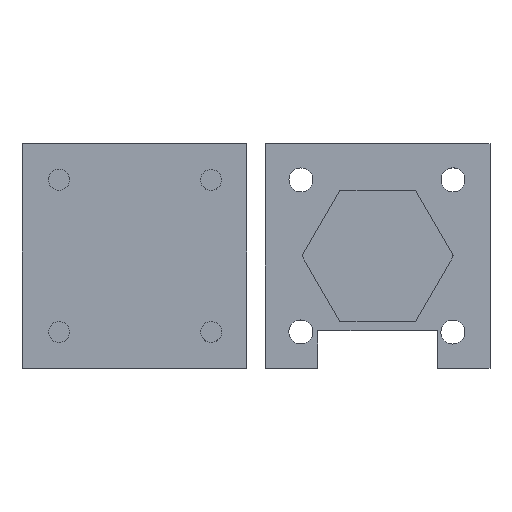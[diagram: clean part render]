
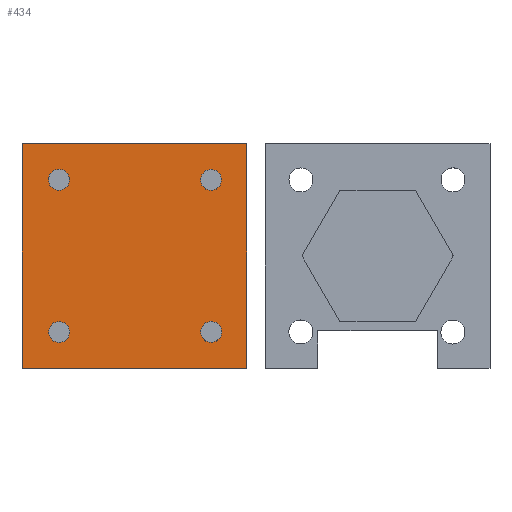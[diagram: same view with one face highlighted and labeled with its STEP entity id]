
A CAD part, top view. The second image highlights one B-rep face of the part: STEP entity #434.
In plain terms, the highlighted planar face has unit normal (0, 0, 1).
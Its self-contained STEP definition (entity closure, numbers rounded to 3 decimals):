
#32=CARTESIAN_POINT('',(-6.439,-10.146,0.9));
#33=VERTEX_POINT('',#32);
#59=CARTESIAN_POINT('',(-3.639,-10.146,0.9));
#60=VERTEX_POINT('',#59);
#61=CARTESIAN_POINT('',(-5.039,-10.146,0.9));
#62=DIRECTION('',(0.,0.,1.));
#63=DIRECTION('',(1.,0.,-0.));
#64=AXIS2_PLACEMENT_3D('',#61,#62,#63);
#65=CIRCLE('',#64,1.4);
#66=EDGE_CURVE('',#33,#60,#65,.T.);
#68=CARTESIAN_POINT('',(-5.039,-10.146,0.9));
#69=DIRECTION('',(0.,0.,1.));
#70=DIRECTION('',(1.,0.,-0.));
#71=AXIS2_PLACEMENT_3D('',#68,#69,#70);
#72=CIRCLE('',#71,1.4);
#73=EDGE_CURVE('',#60,#33,#72,.T.);
#93=CARTESIAN_POINT('',(-26.74,-10.161,0.9));
#94=VERTEX_POINT('',#93);
#120=CARTESIAN_POINT('',(-23.94,-10.161,0.9));
#121=VERTEX_POINT('',#120);
#122=CARTESIAN_POINT('',(-25.34,-10.161,0.9));
#123=DIRECTION('',(0.,0.,1.));
#124=DIRECTION('',(1.,0.,-0.));
#125=AXIS2_PLACEMENT_3D('',#122,#123,#124);
#126=CIRCLE('',#125,1.4);
#127=EDGE_CURVE('',#94,#121,#126,.T.);
#129=CARTESIAN_POINT('',(-25.34,-10.161,0.9));
#130=DIRECTION('',(0.,0.,1.));
#131=DIRECTION('',(1.,0.,-0.));
#132=AXIS2_PLACEMENT_3D('',#129,#130,#131);
#133=CIRCLE('',#132,1.4);
#134=EDGE_CURVE('',#121,#94,#133,.T.);
#154=CARTESIAN_POINT('',(-6.452,10.16,0.9));
#155=VERTEX_POINT('',#154);
#181=CARTESIAN_POINT('',(-3.652,10.16,0.9));
#182=VERTEX_POINT('',#181);
#183=CARTESIAN_POINT('',(-5.052,10.16,0.9));
#184=DIRECTION('',(0.,0.,1.));
#185=DIRECTION('',(1.,0.,-0.));
#186=AXIS2_PLACEMENT_3D('',#183,#184,#185);
#187=CIRCLE('',#186,1.4);
#188=EDGE_CURVE('',#155,#182,#187,.T.);
#190=CARTESIAN_POINT('',(-5.052,10.16,0.9));
#191=DIRECTION('',(0.,0.,1.));
#192=DIRECTION('',(1.,0.,-0.));
#193=AXIS2_PLACEMENT_3D('',#190,#191,#192);
#194=CIRCLE('',#193,1.4);
#195=EDGE_CURVE('',#182,#155,#194,.T.);
#215=CARTESIAN_POINT('',(-26.76,10.166,0.9));
#216=VERTEX_POINT('',#215);
#242=CARTESIAN_POINT('',(-23.96,10.166,0.9));
#243=VERTEX_POINT('',#242);
#244=CARTESIAN_POINT('',(-25.36,10.166,0.9));
#245=DIRECTION('',(0.,0.,1.));
#246=DIRECTION('',(1.,0.,-0.));
#247=AXIS2_PLACEMENT_3D('',#244,#245,#246);
#248=CIRCLE('',#247,1.4);
#249=EDGE_CURVE('',#216,#243,#248,.T.);
#251=CARTESIAN_POINT('',(-25.36,10.166,0.9));
#252=DIRECTION('',(0.,0.,1.));
#253=DIRECTION('',(1.,0.,-0.));
#254=AXIS2_PLACEMENT_3D('',#251,#252,#253);
#255=CIRCLE('',#254,1.4);
#256=EDGE_CURVE('',#243,#216,#255,.T.);
#276=CARTESIAN_POINT('',(-30.3,15.,0.9));
#277=VERTEX_POINT('',#276);
#278=CARTESIAN_POINT('',(-30.3,-15.,0.9));
#279=VERTEX_POINT('',#278);
#280=CARTESIAN_POINT('',(-30.3,15.,0.9));
#281=DIRECTION('',(-0.,-1.,0.));
#282=VECTOR('',#281,30.);
#283=LINE('',#280,#282);
#284=EDGE_CURVE('',#277,#279,#283,.T.);
#316=CARTESIAN_POINT('',(-0.3,-15.,0.9));
#317=VERTEX_POINT('',#316);
#318=CARTESIAN_POINT('',(-0.3,-15.,0.9));
#319=DIRECTION('',(-1.,-0.,0.));
#320=VECTOR('',#319,30.);
#321=LINE('',#318,#320);
#322=EDGE_CURVE('',#317,#279,#321,.T.);
#347=CARTESIAN_POINT('',(-0.3,15.,0.9));
#348=VERTEX_POINT('',#347);
#349=CARTESIAN_POINT('',(-0.3,15.,0.9));
#350=DIRECTION('',(0.,-1.,0.));
#351=VECTOR('',#350,30.);
#352=LINE('',#349,#351);
#353=EDGE_CURVE('',#348,#317,#352,.T.);
#378=CARTESIAN_POINT('',(-30.3,15.,0.9));
#379=DIRECTION('',(1.,0.,-0.));
#380=VECTOR('',#379,30.);
#381=LINE('',#378,#380);
#382=EDGE_CURVE('',#277,#348,#381,.T.);
#407=CARTESIAN_POINT('',(-15.3,0.,0.9));
#408=DIRECTION('',(0.,0.,1.));
#409=DIRECTION('',(1.,0.,0.));
#410=AXIS2_PLACEMENT_3D('',#407,#408,#409);
#411=PLANE('',#410);
#412=ORIENTED_EDGE('',*,*,#66,.F.);
#413=ORIENTED_EDGE('',*,*,#73,.F.);
#414=EDGE_LOOP('',(#412,#413));
#415=FACE_BOUND('',#414,.T.);
#416=ORIENTED_EDGE('',*,*,#127,.F.);
#417=ORIENTED_EDGE('',*,*,#134,.F.);
#418=EDGE_LOOP('',(#416,#417));
#419=FACE_BOUND('',#418,.T.);
#420=ORIENTED_EDGE('',*,*,#188,.F.);
#421=ORIENTED_EDGE('',*,*,#195,.F.);
#422=EDGE_LOOP('',(#420,#421));
#423=FACE_BOUND('',#422,.T.);
#424=ORIENTED_EDGE('',*,*,#249,.F.);
#425=ORIENTED_EDGE('',*,*,#256,.F.);
#426=EDGE_LOOP('',(#424,#425));
#427=FACE_BOUND('',#426,.T.);
#428=ORIENTED_EDGE('',*,*,#284,.T.);
#429=ORIENTED_EDGE('',*,*,#322,.F.);
#430=ORIENTED_EDGE('',*,*,#353,.F.);
#431=ORIENTED_EDGE('',*,*,#382,.F.);
#432=EDGE_LOOP('',(#428,#429,#430,#431));
#433=FACE_BOUND('',#432,.T.);
#434=ADVANCED_FACE('',(#415,#419,#423,#427,#433),#411,.T.);
